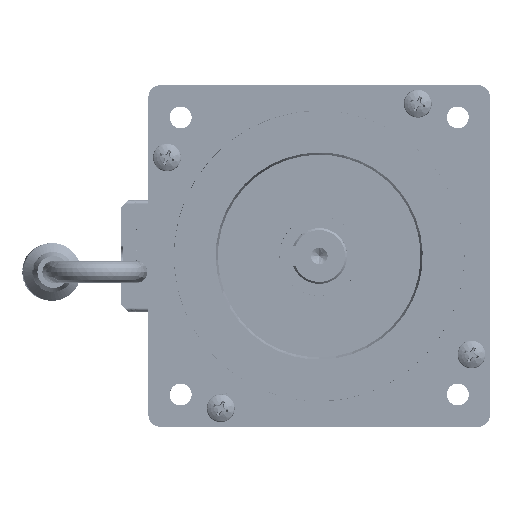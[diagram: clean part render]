
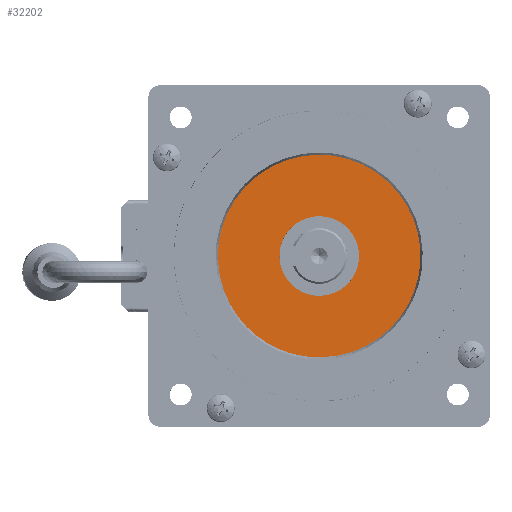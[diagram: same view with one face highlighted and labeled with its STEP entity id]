
A CAD part, left-side view. The second image highlights one B-rep face of the part: STEP entity #32202.
In plain terms, the highlighted free-form (B-spline) face has degree [1, 1] with [2, 2] control points.
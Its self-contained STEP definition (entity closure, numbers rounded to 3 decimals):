
#1761 = CARTESIAN_POINT ( 'NONE',  ( -0.1, 0., 10. ) ) ;
#4116 = CARTESIAN_POINT ( 'NONE',  ( -0.1, 9.68, 2.595 ) ) ;
#5877 = CARTESIAN_POINT ( 'NONE',  ( -0.1, 7.535, -6.607 ) ) ;
#9515 = CARTESIAN_POINT ( 'NONE',  ( -0.1, 0., 25.454 ) ) ;
#10382 = CARTESIAN_POINT ( 'NONE',  ( -0.1, 1.307, -9.936 ) ) ;
#12088 = FACE_OUTER_BOUND ( 'NONE', #164854, .T. ) ;
#19522 = CARTESIAN_POINT ( 'NONE',  ( -0.1, 4.433, 8.988 ) ) ;
#23178 = CARTESIAN_POINT ( 'NONE',  ( -0.1, -10., -5.858 ) ) ;
#24001 = CARTESIAN_POINT ( 'NONE',  ( -0.1, 0.657, -10. ) ) ;
#26214 = CARTESIAN_POINT ( 'NONE',  ( -0.1, 0., -25.454 ) ) ;
#27567 = CARTESIAN_POINT ( 'NONE',  ( -0.1, -25.454, -14.911 ) ) ;
#29257 = CARTESIAN_POINT ( 'NONE',  ( -0.1, 25.759, 25.759 ) ) ;
#30443 = CARTESIAN_POINT ( 'NONE',  ( -0.1, 3.22, -9.49 ) ) ;
#32202 = ADVANCED_FACE ( 'NONE', ( #152561, #12088 ), #90235, .F. ) ;
#32212 = CARTESIAN_POINT ( 'NONE',  ( -0.1, 8.679, -5.01 ) ) ;
#33105 = CARTESIAN_POINT ( 'NONE',  ( -0.1, 8.679, 5.01 ) ) ;
#35032 =( BOUNDED_CURVE ( )  B_SPLINE_CURVE ( 3, ( #176761, #39803, #52499, #26214 ),
 .UNSPECIFIED., .F., .F. ) 
 B_SPLINE_CURVE_WITH_KNOTS ( ( 4, 4 ),
 ( -3.142, 0. ),
 .UNSPECIFIED. ) 
 CURVE ( )  GEOMETRIC_REPRESENTATION_ITEM ( )  RATIONAL_B_SPLINE_CURVE ( ( 1., 0.333, 0.333, 1. ) ) 
 REPRESENTATION_ITEM ( '' )  );
#39184 = VERTEX_POINT ( 'NONE', #73980 ) ;
#39803 = CARTESIAN_POINT ( 'NONE',  ( -0.1, 50.908, 25.454 ) ) ;
#43422 = CARTESIAN_POINT ( 'NONE',  ( -0.1, -10., 5.858 ) ) ;
#44022 = CARTESIAN_POINT ( 'NONE',  ( -0.1, 10., 0.657 ) ) ;
#45815 = CARTESIAN_POINT ( 'NONE',  ( -0.1, 9.49, -3.22 ) ) ;
#47578 = CARTESIAN_POINT ( 'NONE',  ( -0.1, 5.01, -8.679 ) ) ;
#52083 = CARTESIAN_POINT ( 'NONE',  ( -0.1, 0., -25.454 ) ) ;
#52499 = CARTESIAN_POINT ( 'NONE',  ( -0.1, 50.908, -25.454 ) ) ;
#59382 = CARTESIAN_POINT ( 'NONE',  ( -0.1, 10., -0.657 ) ) ;
#61153 = CARTESIAN_POINT ( 'NONE',  ( -0.1, 7.95, 6.102 ) ) ;
#61843 = VERTEX_POINT ( 'NONE', #145548 ) ;
#67348 = CARTESIAN_POINT ( 'NONE',  ( -0.1, -25.759, 25.759 ) ) ;
#68756 = CARTESIAN_POINT ( 'NONE',  ( -0.1, 0., -25.454 ) ) ;
#71090 = CARTESIAN_POINT ( 'NONE',  ( -0.1, 0., 25.454 ) ) ;
#73980 = CARTESIAN_POINT ( 'NONE',  ( -0.1, 0., 10. ) ) ;
#74188 = CARTESIAN_POINT ( 'NONE',  ( -0.1, 0., -10. ) ) ;
#75677 = CARTESIAN_POINT ( 'NONE',  ( -0.1, 0., -10. ) ) ;
#80979 = VERTEX_POINT ( 'NONE', #68756 ) ;
#82869 = CARTESIAN_POINT ( 'NONE',  ( -0.1, -25.454, 0. ) ) ;
#85616 = EDGE_CURVE ( 'NONE', #154085, #80979, #35032, .T. ) ;
#87517 = CARTESIAN_POINT ( 'NONE',  ( -0.1, 7.95, -6.102 ) ) ;
#88399 = CARTESIAN_POINT ( 'NONE',  ( -0.1, 8.988, 4.433 ) ) ;
#90235 = B_SPLINE_SURFACE_WITH_KNOTS ( 'NONE', 1, 1, ( 
 ( #29257, #67348 ),
 ( #151679, #126239 ) ),
 .UNSPECIFIED., .F., .F., .F.,
 ( 2, 2 ),
 ( 2, 2 ),
 ( 0., 1. ),
 ( 0., 1. ),
 .UNSPECIFIED. ) ;
#91539 = ORIENTED_EDGE ( 'NONE', *, *, #85616, .F. ) ;
#92915 = CARTESIAN_POINT ( 'NONE',  ( -0.1, -25.454, 14.911 ) ) ;
#92940 =( BOUNDED_CURVE ( )  B_SPLINE_CURVE ( 3, ( #1761, #167692, #43422, #148286, #23178, #105689, #74188 ),
 .UNSPECIFIED., .F., .F. ) 
 B_SPLINE_CURVE_WITH_KNOTS ( ( 4, 3, 4 ),
 ( -3.142, -1.571, 0. ),
 .UNSPECIFIED. ) 
 CURVE ( )  GEOMETRIC_REPRESENTATION_ITEM ( )  RATIONAL_B_SPLINE_CURVE ( ( 1., 0.805, 0.805, 1., 0.805, 0.805, 1. ) ) 
 REPRESENTATION_ITEM ( '' )  );
#97838 = EDGE_CURVE ( 'NONE', #39184, #61843, #178902, .T. ) ;
#99359 = CARTESIAN_POINT ( 'NONE',  ( -0.1, 8.988, -4.433 ) ) ;
#101131 = CARTESIAN_POINT ( 'NONE',  ( -0.1, 6.102, 7.95 ) ) ;
#102021 = CARTESIAN_POINT ( 'NONE',  ( -0.1, 5.01, 8.679 ) ) ;
#105689 = CARTESIAN_POINT ( 'NONE',  ( -0.1, -5.858, -10. ) ) ;
#107270 = EDGE_LOOP ( 'NONE', ( #125122, #153884 ) ) ;
#107398 = CARTESIAN_POINT ( 'NONE',  ( -0.1, -14.911, -25.454 ) ) ;
#112938 = CARTESIAN_POINT ( 'NONE',  ( -0.1, 7.535, 6.607 ) ) ;
#113829 = CARTESIAN_POINT ( 'NONE',  ( -0.1, 9.49, 3.22 ) ) ;
#114734 = CARTESIAN_POINT ( 'NONE',  ( -0.1, 9.936, -1.307 ) ) ;
#116515 = CARTESIAN_POINT ( 'NONE',  ( -0.1, 6.607, -7.535 ) ) ;
#120979 = CARTESIAN_POINT ( 'NONE',  ( -0.1, 2.595, -9.68 ) ) ;
#125122 = ORIENTED_EDGE ( 'NONE', *, *, #97838, .T. ) ;
#126239 = CARTESIAN_POINT ( 'NONE',  ( -0.1, -25.759, -25.759 ) ) ;
#126271 = EDGE_CURVE ( 'NONE', #39184, #61843, #92940, .T. ) ;
#126538 = CARTESIAN_POINT ( 'NONE',  ( -0.1, 0., 10. ) ) ;
#130111 = CARTESIAN_POINT ( 'NONE',  ( -0.1, 3.22, 9.49 ) ) ;
#136384 = EDGE_CURVE ( 'NONE', #80979, #154085, #145852, .T. ) ;
#141934 = CARTESIAN_POINT ( 'NONE',  ( -0.1, 0.657, 10. ) ) ;
#145548 = CARTESIAN_POINT ( 'NONE',  ( -0.1, 0., -10. ) ) ;
#145852 =( BOUNDED_CURVE ( )  B_SPLINE_CURVE ( 3, ( #52083, #107398, #27567, #82869, #92915, #161839, #9515 ),
 .UNSPECIFIED., .F., .F. ) 
 B_SPLINE_CURVE_WITH_KNOTS ( ( 4, 3, 4 ),
 ( -3.142, -1.571, 0. ),
 .UNSPECIFIED. ) 
 CURVE ( )  GEOMETRIC_REPRESENTATION_ITEM ( )  RATIONAL_B_SPLINE_CURVE ( ( 1., 0.805, 0.805, 1., 0.805, 0.805, 1. ) ) 
 REPRESENTATION_ITEM ( '' )  );
#148286 = CARTESIAN_POINT ( 'NONE',  ( -0.1, -10., 0. ) ) ;
#151679 = CARTESIAN_POINT ( 'NONE',  ( -0.1, 25.759, -25.759 ) ) ;
#152561 = FACE_BOUND ( 'NONE', #107270, .T. ) ;
#153884 = ORIENTED_EDGE ( 'NONE', *, *, #126271, .F. ) ;
#154085 = VERTEX_POINT ( 'NONE', #71090 ) ;
#154640 = CARTESIAN_POINT ( 'NONE',  ( -0.1, 4.433, -8.988 ) ) ;
#156426 = CARTESIAN_POINT ( 'NONE',  ( -0.1, 9.936, 1.307 ) ) ;
#157327 = CARTESIAN_POINT ( 'NONE',  ( -0.1, 2.595, 9.68 ) ) ;
#161839 = CARTESIAN_POINT ( 'NONE',  ( -0.1, -14.911, 25.454 ) ) ;
#164854 = EDGE_LOOP ( 'NONE', ( #173416, #91539 ) ) ;
#167692 = CARTESIAN_POINT ( 'NONE',  ( -0.1, -5.858, 10. ) ) ;
#168260 = CARTESIAN_POINT ( 'NONE',  ( -0.1, 6.607, 7.535 ) ) ;
#170062 = CARTESIAN_POINT ( 'NONE',  ( -0.1, 9.68, -2.595 ) ) ;
#170932 = CARTESIAN_POINT ( 'NONE',  ( -0.1, 1.307, 9.936 ) ) ;
#171829 = CARTESIAN_POINT ( 'NONE',  ( -0.1, 6.102, -7.95 ) ) ;
#173416 = ORIENTED_EDGE ( 'NONE', *, *, #136384, .F. ) ;
#176761 = CARTESIAN_POINT ( 'NONE',  ( -0.1, 0., 25.454 ) ) ;
#178902 = B_SPLINE_CURVE_WITH_KNOTS ( 'NONE', 3,
 ( #126538, #141934, #170932, #157327, #130111, #19522, #102021, #101131, #168260, #112938, #61153, #33105, #88399, #113829, #4116, #156426, #44022, #59382, #114734, #170062, #45815, #99359, #32212, #87517, #5877, #116515, #171829, #47578, #154640, #30443, #120979, #10382, #24001, #75677 ),
 .UNSPECIFIED., .F., .F.,
 ( 4, 2, 2, 2, 2, 2, 2, 2, 2, 2, 2, 2, 2, 2, 2, 2, 4 ),
 ( 0., 0.196, 0.393, 0.589, 0.785, 0.982, 1.178, 1.374, 1.571, 1.767, 1.963, 2.16, 2.356, 2.553, 2.749, 2.945, 3.142 ),
 .UNSPECIFIED. ) ;
